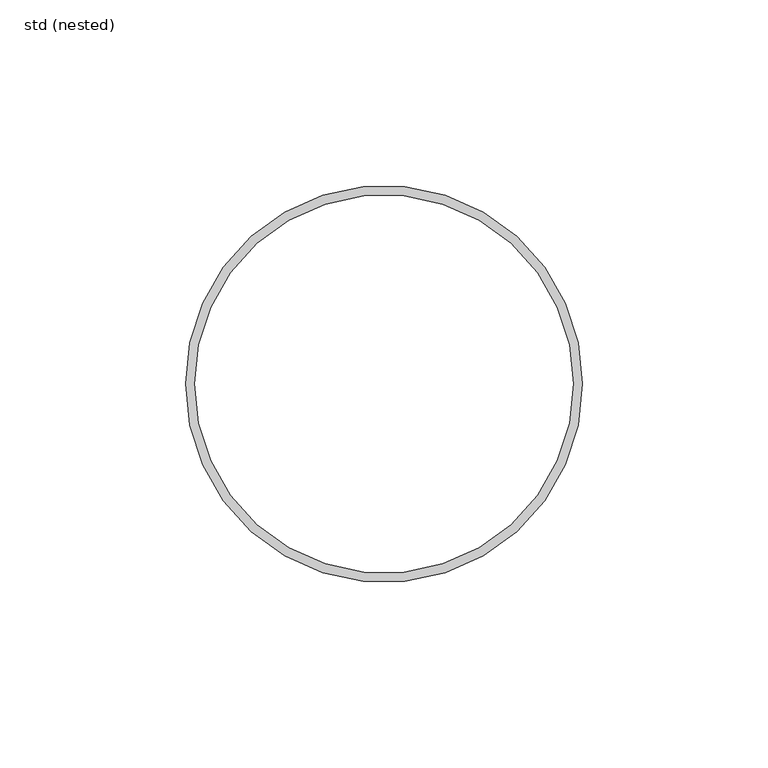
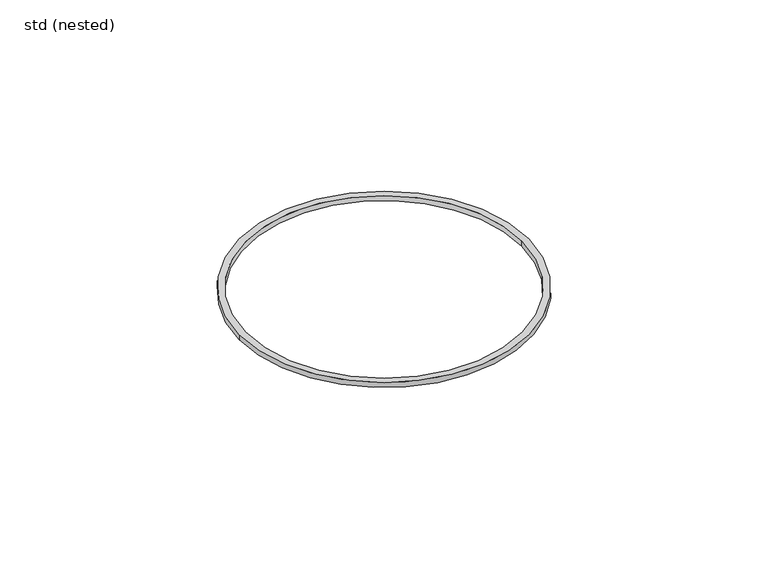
"""IFC4 building model written with IfcOpenShell, lengths in millimetres: pipe fitting geometry, ZZZ_do not use_PIF_GEN_WPB_GM-X (compound) pipe seal_ACO : std (nested)."""

from ifc_helpers import new_model, si_unit, point, frame, origin, origin_2d, place, context, project, spatial, circle_curve, trimmed, segment, composite_curve, outline, extrude, source, transform, mapped, element, save


def std_nested_457d7e35(model_context):
    return source(origin(), model_context, "Body", "SweptSolid", [
        extrude(outline(composite_curve([segment(trimmed(circle_curve(origin_2d(), 53.5), [point((53.5, 0.0))], [point((-53.5, 0.0))], False, "CARTESIAN"), True, "CONTINUOUS"), segment(trimmed(circle_curve(origin_2d(), 53.5), [point((-53.5, 0.0))], [point((53.5, 0.0))], False, "CARTESIAN"), True, "CONTINUOUS")], self_intersect=False), holes=[composite_curve([segment(trimmed(circle_curve(origin_2d(), 51.0), [point((51.0, 0.0))], [point((-51.0, 0.0))], True, "CARTESIAN"), True, "CONTINUOUS"), segment(trimmed(circle_curve(origin_2d(), 51.0), [point((-51.0, 0.0))], [point((51.0, 0.0))], True, "CARTESIAN"), True, "CONTINUOUS")], self_intersect=False)]), frame((0.0, 0.0, -72.0), z_axis=(0.0, 0.0, 1.0), x_axis=(1.0, 0.0, 0.0)), (0.0, 0.0, 1.0), 2.0),
    ])


if __name__ == "__main__":
    model = new_model("IFC4")
    model_context = context("Model", 3, world=origin())
    ifc_project = project(units=[si_unit("LENGTHUNIT", "METRE", prefix="MILLI")], contexts=[model_context])
    site = spatial("IfcSite", under=ifc_project)
    building = spatial("IfcBuilding", under=site)
    placement = place(None, origin())
    std_nested_shape = std_nested_457d7e35(model_context)
    element("IfcPipeFitting", 1, ObjectType="ZZZ_do not use_PIF_GEN_WPB_GM-X (compound) pipe seal_ACO : std (nested)", at=placement, inside=building, context=model_context, shape_type="MappedRepresentation", body=[
        mapped(std_nested_shape, transform((0.0, 0.0, 0.0), x_axis=(1.0, 0.0, 0.0), y_axis=(0.0, 1.0, 0.0), z_axis=(0.0, 0.0, 1.0))),
    ])
    save(model, "model.ifc")
